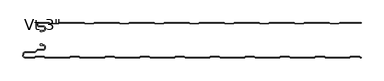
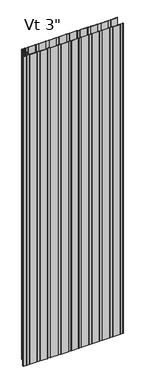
"""IFC4 building model written with IfcOpenShell, lengths in millimetres: plate geometry."""

from ifc_helpers import new_model, si_unit, point, frame, frame_2d, origin, origin_with_axes, place, context, project, spatial, polyline, circle_curve, trimmed, segment, composite_curve, outline, extrude, source, transform, mapped, element, save
from ifc_brep_helpers import plane_surface, cylinder_surface, revolved_surface, advanced_brep


def plate_1283bab2(model_context):
    return source(origin(), model_context, "Body", "SolidModel", [
        advanced_brep(
        [(-346.968691, -17.0015202, 2400.0), (-347.9686883, -18.0015234, 2400.0), (-346.968691, -19.0015147, 2400.0), (-342.9684874, -19.0015147, 2400.0), (-342.9684874, -18.0015202, 2400.0), (-340.2762776, -18.0015202, 2400.0), (-336.9762819, -14.7015245, 2400.0), (-336.9762819, -10.3015333, 2400.0), (-340.2762774, -7.0015378, 2400.0), (-350.6962563, -7.0015378, 2400.0), (-352.4662505, -5.2315436, 2400.0), (-352.4662505, -0.9999959, 2400.0), (-327.9659738, -0.9999959, 2400.0), (-326.5803312, -2.200235, 2400.0), (-307.2051649, -2.200235, 2400.0), (-305.819532, -1.0000043, 2400.0), (-251.7661166, -1.0000043, 2400.0), (-250.3804836, -2.200235, 2400.0), (-231.0053173, -2.200235, 2400.0), (-229.6196844, -1.0000043, 2400.0), (-175.566269, -1.0000043, 2400.0), (-174.180636, -2.200235, 2400.0), (-154.8054697, -2.200235, 2400.0), (-153.4198368, -1.0000043, 2400.0), (-99.3664214, -1.0000043, 2400.0), (-97.9807884, -2.200235, 2400.0), (-78.6056221, -2.200235, 2400.0), (-77.2199892, -1.0000043, 2400.0), (-23.1665738, -1.0000043, 2400.0), (-21.7809408, -2.200235, 2400.0), (-2.4057745, -2.200235, 2400.0), (-1.0201416, -1.0000043, 2400.0), (53.0332738, -1.0000043, 2400.0), (54.4189068, -2.200235, 2400.0), (73.7940731, -2.200235, 2400.0), (75.179706, -1.0000043, 2400.0), (129.2331214, -1.0000043, 2400.0), (130.6187544, -2.200235, 2400.0), (149.9939207, -2.200235, 2400.0), (151.3795536, -1.0000043, 2400.0), (205.432969, -1.0000043, 2400.0), (206.818602, -2.200235, 2400.0), (226.1937683, -2.200235, 2400.0), (227.5794012, -1.0000043, 2400.0), (281.6328166, -1.0000043, 2400.0), (283.0184496, -2.200235, 2400.0), (302.3936159, -2.200235, 2400.0), (303.7792488, -1.0000043, 2400.0), (350.4999998, -1.0000043, 2400.0), (350.4999998, -4.3e-06, 2400.0), (303.9284, -4.3e-06, 2400.0), (303.0117831, -0.3417928, 2400.0), (302.0207355, -1.200235, 2400.0), (283.39133, -1.200235, 2400.0), (282.4002824, -0.3417928, 2400.0), (281.4836655, -4.3e-06, 2400.0), (227.7285524, -4.3e-06, 2400.0), (226.8119355, -0.3417928, 2400.0), (225.8208879, -1.200235, 2400.0), (207.1914824, -1.200235, 2400.0), (206.2004348, -0.3417928, 2400.0), (205.2838179, -4.3e-06, 2400.0), (151.5287048, -4.3e-06, 2400.0), (150.6120879, -0.3417928, 2400.0), (149.6210403, -1.200235, 2400.0), (130.9916348, -1.200235, 2400.0), (130.0005872, -0.3417928, 2400.0), (129.0839703, -4.3e-06, 2400.0), (75.3288572, -4.3e-06, 2400.0), (74.4122403, -0.3417928, 2400.0), (73.4211927, -1.200235, 2400.0), (54.7917872, -1.200235, 2400.0), (53.8007396, -0.3417928, 2400.0), (52.8841227, -4.3e-06, 2400.0), (-0.8709904, -4.3e-06, 2400.0), (-1.7876073, -0.3417928, 2400.0), (-2.7786549, -1.200235, 2400.0), (-21.4080604, -1.200235, 2400.0), (-22.399108, -0.3417928, 2400.0), (-23.3157249, -4.3e-06, 2400.0), (-77.070838, -4.3e-06, 2400.0), (-77.9874549, -0.3417928, 2400.0), (-78.9785025, -1.200235, 2400.0), (-97.607908, -1.200235, 2400.0), (-98.5989556, -0.3417928, 2400.0), (-99.5155725, -4.3e-06, 2400.0), (-153.2706856, -4.3e-06, 2400.0), (-154.1873025, -0.3417928, 2400.0), (-155.1783501, -1.200235, 2400.0), (-173.8077556, -1.200235, 2400.0), (-174.7988032, -0.3417928, 2400.0), (-175.7154201, -4.3e-06, 2400.0), (-229.4705332, -4.3e-06, 2400.0), (-230.3871501, -0.3417928, 2400.0), (-231.3781977, -1.200235, 2400.0), (-250.0076032, -1.200235, 2400.0), (-250.9986508, -0.3417928, 2400.0), (-251.9152677, -4.3e-06, 2400.0), (-305.6703808, -4.3e-06, 2400.0), (-306.5869977, -0.3417928, 2400.0), (-307.5780453, -1.200235, 2400.0), (-326.2074508, -1.200235, 2400.0), (-327.1984984, -0.3417928, 2400.0), (-328.1152067, -4.3e-06, 2400.0), (-352.0662543, 4.1e-06, 2400.0), (-353.4662505, -1.3999921, 2400.0), (-353.4662505, -5.2315436, 2400.0), (-350.6962563, -8.0015378, 2400.0), (-340.2762774, -8.0015378, 2400.0), (-337.9762819, -10.3015333, 2400.0), (-337.9762819, -14.7015245, 2400.0), (-340.2762776, -17.0015202, 2400.0), (-346.968691, -17.0015202, 0.0), (-340.2762776, -17.0015202, 0.0), (-337.9762819, -14.7015245, 0.0), (-337.9762819, -10.3015333, 0.0), (-340.2762774, -8.0015378, 0.0), (-350.6962563, -8.0015378, 0.0), (-353.4662505, -5.2315436, 0.0), (-353.4662505, -1.3999921, 0.0), (-352.0662543, 4.1e-06, 0.0), (-328.1151153, 4.1e-06, 0.0), (-327.1984984, -0.3417928, 0.0), (-326.2074508, -1.200235, 0.0), (-307.5780453, -1.200235, 0.0), (-306.5869977, -0.3417928, 0.0), (-305.6703808, -4.3e-06, 0.0), (-251.9152677, -4.3e-06, 0.0), (-250.9986508, -0.3417928, 0.0), (-250.0076032, -1.200235, 0.0), (-231.3781977, -1.200235, 0.0), (-230.3871501, -0.3417928, 0.0), (-229.4705332, -4.3e-06, 0.0), (-175.7154201, -4.3e-06, 0.0), (-174.7988032, -0.3417928, 0.0), (-173.8077556, -1.200235, 0.0), (-155.1783501, -1.200235, 0.0), (-154.1873025, -0.3417928, 0.0), (-153.2706856, -4.3e-06, 0.0), (-99.5155725, -4.3e-06, 0.0), (-98.5989556, -0.3417928, 0.0), (-97.607908, -1.200235, 0.0), (-78.9785025, -1.200235, 0.0), (-77.9874549, -0.3417928, 0.0), (-77.070838, -4.3e-06, 0.0), (-23.3157249, -4.3e-06, 0.0), (-22.399108, -0.3417928, 0.0), (-21.4080604, -1.200235, 0.0), (-2.7786549, -1.200235, 0.0), (-1.7876073, -0.3417928, 0.0), (-0.8709904, -4.3e-06, 0.0), (52.8841227, -4.3e-06, 0.0), (53.8007396, -0.3417928, 0.0), (54.7917872, -1.200235, 0.0), (73.4211927, -1.200235, 0.0), (74.4122403, -0.3417928, 0.0), (75.3288572, -4.3e-06, 0.0), (129.0839703, -4.3e-06, 0.0), (130.0005872, -0.3417928, 0.0), (130.9916348, -1.200235, 0.0), (149.6210403, -1.200235, 0.0), (150.6120879, -0.3417928, 0.0), (151.5287048, -4.3e-06, 0.0), (205.2838179, -4.3e-06, 0.0), (206.2004348, -0.3417928, 0.0), (207.1914824, -1.200235, 0.0), (225.8208879, -1.200235, 0.0), (226.8119355, -0.3417928, 0.0), (227.7285524, -4.3e-06, 0.0), (281.4836655, -4.3e-06, 0.0), (282.4002824, -0.3417928, 0.0), (283.39133, -1.200235, 0.0), (302.0207355, -1.200235, 0.0), (303.0117831, -0.3417928, 0.0), (303.9284, -4.3e-06, 0.0), (350.4999998, -4.3e-06, 0.0), (350.4999998, -1.0000043, 0.0), (303.7792488, -1.0000043, 0.0), (302.3936159, -2.200235, 0.0), (283.0184496, -2.200235, 0.0), (281.6328166, -1.0000043, 0.0), (227.5794012, -1.0000043, 0.0), (226.1937683, -2.200235, 0.0), (206.818602, -2.200235, 0.0), (205.432969, -1.0000043, 0.0), (151.3795536, -1.0000043, 0.0), (149.9939207, -2.200235, 0.0), (130.6187544, -2.200235, 0.0), (129.2331214, -1.0000043, 0.0), (75.179706, -1.0000043, 0.0), (73.7940731, -2.200235, 0.0), (54.4189068, -2.200235, 0.0), (53.0332738, -1.0000043, 0.0), (-1.0201416, -1.0000043, 0.0), (-2.4057745, -2.200235, 0.0), (-21.7809408, -2.200235, 0.0), (-23.1665738, -1.0000043, 0.0), (-77.2199892, -1.0000043, 0.0), (-78.6056221, -2.200235, 0.0), (-97.9807884, -2.200235, 0.0), (-99.3664214, -1.0000043, 0.0), (-153.4198368, -1.0000043, 0.0), (-154.8054697, -2.200235, 0.0), (-174.180636, -2.200235, 0.0), (-175.566269, -1.0000043, 0.0), (-229.6196844, -1.0000043, 0.0), (-231.0053173, -2.200235, 0.0), (-250.3804836, -2.200235, 0.0), (-251.7661166, -1.0000043, 0.0), (-305.819532, -1.0000043, 0.0), (-307.2051649, -2.200235, 0.0), (-326.5803312, -2.200235, 0.0), (-327.9659738, -0.9999959, 0.0), (-352.4662505, -0.9999959, 0.0), (-352.4662505, -5.2315436, 0.0), (-350.6962563, -7.0015378, 0.0), (-340.2762774, -7.0015378, 0.0), (-336.9762819, -10.3015333, 0.0), (-336.9762819, -14.7015245, 0.0), (-340.2762776, -18.0015202, 0.0), (-342.9684874, -18.0015202, 0.0), (-342.9684874, -19.0015147, 0.0), (-346.968691, -19.0015147, 0.0), (-347.9686882, -18.0015235, 0.0)],
        [
            (0, 1, circle_curve(frame((-346.968691, -18.0015175, 2400.0), z_axis=(0.0, 0.0, 1.0), x_axis=(1.0, 0.0, 0.0)), 0.9999973)),
            (1, 2, circle_curve(frame((-346.968691, -18.0015175, 2400.0), z_axis=(0.0, 0.0, 1.0), x_axis=(1.0, 0.0, 0.0)), 0.9999972)),
            (2, 3),
            (3, 4),
            (4, 5),
            (5, 6, circle_curve(frame((-340.2762776, -14.7015245, 2400.0), z_axis=(0.0, 0.0, 1.0), x_axis=(1.0, 0.0, 0.0)), 3.2999957)),
            (6, 7),
            (7, 8, circle_curve(frame((-340.2762774, -10.3015333, 2400.0), z_axis=(0.0, 0.0, 1.0), x_axis=(1.0, 0.0, 0.0)), 3.2999955)),
            (8, 9),
            (9, 10, circle_curve(frame((-350.6962563, -5.2315436, 2400.0), z_axis=(0.0, 0.0, -1.0), x_axis=(1.0, 0.0, 0.0)), 1.7699942)),
            (10, 11),
            (11, 12),
            (12, 13),
            (13, 14),
            (14, 15),
            (15, 16),
            (16, 17),
            (17, 18),
            (18, 19),
            (19, 20),
            (20, 21),
            (21, 22),
            (22, 23),
            (23, 24),
            (24, 25),
            (25, 26),
            (26, 27),
            (27, 28),
            (28, 29),
            (29, 30),
            (30, 31),
            (31, 32),
            (32, 33),
            (33, 34),
            (34, 35),
            (35, 36),
            (36, 37),
            (37, 38),
            (38, 39),
            (39, 40),
            (40, 41),
            (41, 42),
            (42, 43),
            (43, 44),
            (44, 45),
            (45, 46),
            (46, 47),
            (47, 48),
            (48, 49),
            (49, 50),
            (50, 51, circle_curve(frame((303.9284, -1.4000015, 2400.0), z_axis=(0.0, 0.0, 1.0), x_axis=(1.0, 0.0, 0.0)), 1.3999972)),
            (51, 52),
            (52, 53),
            (53, 54),
            (54, 55, circle_curve(frame((281.4836655, -1.4000015, 2400.0), z_axis=(0.0, 0.0, 1.0), x_axis=(1.0, 0.0, 0.0)), 1.3999972)),
            (55, 56),
            (56, 57, circle_curve(frame((227.7285524, -1.4000015, 2400.0), z_axis=(0.0, 0.0, 1.0), x_axis=(1.0, 0.0, 0.0)), 1.3999972)),
            (57, 58),
            (58, 59),
            (59, 60),
            (60, 61, circle_curve(frame((205.2838179, -1.4000015, 2400.0), z_axis=(0.0, 0.0, 1.0), x_axis=(1.0, 0.0, 0.0)), 1.3999972)),
            (61, 62),
            (62, 63, circle_curve(frame((151.5287048, -1.4000015, 2400.0), z_axis=(0.0, 0.0, 1.0), x_axis=(1.0, 0.0, 0.0)), 1.3999972)),
            (63, 64),
            (64, 65),
            (65, 66),
            (66, 67, circle_curve(frame((129.0839703, -1.4000015, 2400.0), z_axis=(0.0, 0.0, 1.0), x_axis=(1.0, 0.0, 0.0)), 1.3999972)),
            (67, 68),
            (68, 69, circle_curve(frame((75.3288572, -1.4000015, 2400.0), z_axis=(0.0, 0.0, 1.0), x_axis=(1.0, 0.0, 0.0)), 1.3999972)),
            (69, 70),
            (70, 71),
            (71, 72),
            (72, 73, circle_curve(frame((52.8841227, -1.4000015, 2400.0), z_axis=(0.0, 0.0, 1.0), x_axis=(1.0, 0.0, 0.0)), 1.3999972)),
            (73, 74),
            (74, 75, circle_curve(frame((-0.8709904, -1.4000015, 2400.0), z_axis=(0.0, 0.0, 1.0), x_axis=(1.0, 0.0, 0.0)), 1.3999972)),
            (75, 76),
            (76, 77),
            (77, 78),
            (78, 79, circle_curve(frame((-23.3157249, -1.4000015, 2400.0), z_axis=(0.0, 0.0, 1.0), x_axis=(1.0, 0.0, 0.0)), 1.3999972)),
            (79, 80),
            (80, 81, circle_curve(frame((-77.070838, -1.4000015, 2400.0), z_axis=(0.0, 0.0, 1.0), x_axis=(1.0, 0.0, 0.0)), 1.3999972)),
            (81, 82),
            (82, 83),
            (83, 84),
            (84, 85, circle_curve(frame((-99.5155725, -1.4000015, 2400.0), z_axis=(0.0, 0.0, 1.0), x_axis=(1.0, 0.0, 0.0)), 1.3999972)),
            (85, 86),
            (86, 87, circle_curve(frame((-153.2706856, -1.4000015, 2400.0), z_axis=(0.0, 0.0, 1.0), x_axis=(1.0, 0.0, 0.0)), 1.3999972)),
            (87, 88),
            (88, 89),
            (89, 90),
            (90, 91, circle_curve(frame((-175.7154201, -1.4000015, 2400.0), z_axis=(0.0, 0.0, 1.0), x_axis=(1.0, 0.0, 0.0)), 1.3999972)),
            (91, 92),
            (92, 93, circle_curve(frame((-229.4705332, -1.4000015, 2400.0), z_axis=(0.0, 0.0, 1.0), x_axis=(1.0, 0.0, 0.0)), 1.3999972)),
            (93, 94),
            (94, 95),
            (95, 96),
            (96, 97, circle_curve(frame((-251.9152677, -1.4000015, 2400.0), z_axis=(0.0, 0.0, 1.0), x_axis=(1.0, 0.0, 0.0)), 1.3999972)),
            (97, 98),
            (98, 99, circle_curve(frame((-305.6703808, -1.4000015, 2400.0), z_axis=(0.0, 0.0, 1.0), x_axis=(1.0, 0.0, 0.0)), 1.3999972)),
            (99, 100),
            (100, 101),
            (101, 102),
            (102, 103, circle_curve(frame((-328.1151153, -1.4000015, 2400.0), z_axis=(0.0, 0.0, 1.0), x_axis=(1.0, 0.0, 0.0)), 1.3999972)),
            (103, 104),
            (104, 105, circle_curve(frame((-352.0662543, -1.3999921, 2400.0), z_axis=(0.0, 0.0, 1.0), x_axis=(1.0, 0.0, 0.0)), 1.3999962)),
            (105, 106),
            (106, 107, circle_curve(frame((-350.6962563, -5.2315436, 2400.0), z_axis=(0.0, 0.0, 1.0), x_axis=(1.0, 0.0, 0.0)), 2.7699942)),
            (107, 108),
            (108, 109, circle_curve(frame((-340.2762774, -10.3015333, 2400.0), z_axis=(0.0, 0.0, -1.0), x_axis=(1.0, 0.0, 0.0)), 2.2999955)),
            (109, 110),
            (110, 111, circle_curve(frame((-340.2762776, -14.7015245, 2400.0), z_axis=(0.0, 0.0, -1.0), x_axis=(1.0, 0.0, 0.0)), 2.2999957)),
            (111, 0),
            (112, 113),
            (113, 114, circle_curve(frame((-340.2762776, -14.7015245, 0.0), z_axis=(0.0, 0.0, 1.0), x_axis=(1.0, 0.0, 0.0)), 2.2999957)),
            (114, 115),
            (115, 116, circle_curve(frame((-340.2762774, -10.3015333, 0.0), z_axis=(0.0, 0.0, 1.0), x_axis=(1.0, 0.0, 0.0)), 2.2999955)),
            (116, 117),
            (117, 118, circle_curve(frame((-350.6962563, -5.2315436, 0.0), z_axis=(0.0, 0.0, -1.0), x_axis=(1.0, 0.0, 0.0)), 2.7699942)),
            (118, 119),
            (119, 120, circle_curve(frame((-352.0662543, -1.3999921, 0.0), z_axis=(0.0, 0.0, -1.0), x_axis=(1.0, 0.0, 0.0)), 1.3999962)),
            (120, 121),
            (121, 122, circle_curve(frame((-328.1151153, -1.4000015, 0.0), z_axis=(0.0, 0.0, -1.0), x_axis=(1.0, 0.0, 0.0)), 1.3999972)),
            (122, 123),
            (123, 124),
            (124, 125),
            (125, 126, circle_curve(frame((-305.6703808, -1.4000015, 0.0), z_axis=(0.0, 0.0, -1.0), x_axis=(1.0, 0.0, 0.0)), 1.3999972)),
            (126, 127),
            (127, 128, circle_curve(frame((-251.9152677, -1.4000015, 0.0), z_axis=(0.0, 0.0, -1.0), x_axis=(1.0, 0.0, 0.0)), 1.3999972)),
            (128, 129),
            (129, 130),
            (130, 131),
            (131, 132, circle_curve(frame((-229.4705332, -1.4000015, 0.0), z_axis=(0.0, 0.0, -1.0), x_axis=(1.0, 0.0, 0.0)), 1.3999972)),
            (132, 133),
            (133, 134, circle_curve(frame((-175.7154201, -1.4000015, 0.0), z_axis=(0.0, 0.0, -1.0), x_axis=(1.0, 0.0, 0.0)), 1.3999972)),
            (134, 135),
            (135, 136),
            (136, 137),
            (137, 138, circle_curve(frame((-153.2706856, -1.4000015, 0.0), z_axis=(0.0, 0.0, -1.0), x_axis=(1.0, 0.0, 0.0)), 1.3999972)),
            (138, 139),
            (139, 140, circle_curve(frame((-99.5155725, -1.4000015, 0.0), z_axis=(0.0, 0.0, -1.0), x_axis=(1.0, 0.0, 0.0)), 1.3999972)),
            (140, 141),
            (141, 142),
            (142, 143),
            (143, 144, circle_curve(frame((-77.070838, -1.4000015, 0.0), z_axis=(0.0, 0.0, -1.0), x_axis=(1.0, 0.0, 0.0)), 1.3999972)),
            (144, 145),
            (145, 146, circle_curve(frame((-23.3157249, -1.4000015, 0.0), z_axis=(0.0, 0.0, -1.0), x_axis=(1.0, 0.0, 0.0)), 1.3999972)),
            (146, 147),
            (147, 148),
            (148, 149),
            (149, 150, circle_curve(frame((-0.8709904, -1.4000015, 0.0), z_axis=(0.0, 0.0, -1.0), x_axis=(1.0, 0.0, 0.0)), 1.3999972)),
            (150, 151),
            (151, 152, circle_curve(frame((52.8841227, -1.4000015, 0.0), z_axis=(0.0, 0.0, -1.0), x_axis=(1.0, 0.0, 0.0)), 1.3999972)),
            (152, 153),
            (153, 154),
            (154, 155),
            (155, 156, circle_curve(frame((75.3288572, -1.4000015, 0.0), z_axis=(0.0, 0.0, -1.0), x_axis=(1.0, 0.0, 0.0)), 1.3999972)),
            (156, 157),
            (157, 158, circle_curve(frame((129.0839703, -1.4000015, 0.0), z_axis=(0.0, 0.0, -1.0), x_axis=(1.0, 0.0, 0.0)), 1.3999972)),
            (158, 159),
            (159, 160),
            (160, 161),
            (161, 162, circle_curve(frame((151.5287048, -1.4000015, 0.0), z_axis=(0.0, 0.0, -1.0), x_axis=(1.0, 0.0, 0.0)), 1.3999972)),
            (162, 163),
            (163, 164, circle_curve(frame((205.2838179, -1.4000015, 0.0), z_axis=(0.0, 0.0, -1.0), x_axis=(1.0, 0.0, 0.0)), 1.3999972)),
            (164, 165),
            (165, 166),
            (166, 167),
            (167, 168, circle_curve(frame((227.7285524, -1.4000015, 0.0), z_axis=(0.0, 0.0, -1.0), x_axis=(1.0, 0.0, 0.0)), 1.3999972)),
            (168, 169),
            (169, 170, circle_curve(frame((281.4836655, -1.4000015, 0.0), z_axis=(0.0, 0.0, -1.0), x_axis=(1.0, 0.0, 0.0)), 1.3999972)),
            (170, 171),
            (171, 172),
            (172, 173),
            (173, 174, circle_curve(frame((303.9284, -1.4000015, 0.0), z_axis=(0.0, 0.0, -1.0), x_axis=(1.0, 0.0, 0.0)), 1.3999972)),
            (174, 175),
            (175, 176),
            (176, 177),
            (177, 178),
            (178, 179),
            (179, 180),
            (180, 181),
            (181, 182),
            (182, 183),
            (183, 184),
            (184, 185),
            (185, 186),
            (186, 187),
            (187, 188),
            (188, 189),
            (189, 190),
            (190, 191),
            (191, 192),
            (192, 193),
            (193, 194),
            (194, 195),
            (195, 196),
            (196, 197),
            (197, 198),
            (198, 199),
            (199, 200),
            (200, 201),
            (201, 202),
            (202, 203),
            (203, 204),
            (204, 205),
            (205, 206),
            (206, 207),
            (207, 208),
            (208, 209),
            (209, 210),
            (210, 211),
            (211, 212),
            (212, 213),
            (213, 214),
            (214, 215, circle_curve(frame((-350.6962563, -5.2315436, 0.0), z_axis=(0.0, 0.0, 1.0), x_axis=(1.0, 0.0, 0.0)), 1.7699942)),
            (215, 216),
            (216, 217, circle_curve(frame((-340.2762774, -10.3015333, 0.0), z_axis=(0.0, 0.0, -1.0), x_axis=(1.0, 0.0, 0.0)), 3.2999955)),
            (217, 218),
            (218, 219, circle_curve(frame((-340.2762776, -14.7015245, 0.0), z_axis=(0.0, 0.0, -1.0), x_axis=(1.0, 0.0, 0.0)), 3.2999957)),
            (219, 220),
            (220, 221),
            (221, 222),
            (222, 223, circle_curve(frame((-346.968691, -18.0015175, 0.0), z_axis=(0.0, 0.0, -1.0), x_axis=(1.0, 0.0, 0.0)), 0.9999972)),
            (223, 112, circle_curve(frame((-346.968691, -18.0015175, 0.0), z_axis=(0.0, 0.0, -1.0), x_axis=(1.0, 0.0, 0.0)), 0.9999973)),
            (111, 113),
            (112, 0),
            (110, 114),
            (109, 115),
            (108, 116),
            (107, 117),
            (106, 118),
            (105, 119),
            (104, 120),
            (103, 121),
            (102, 122),
            (101, 123),
            (100, 124),
            (99, 125),
            (98, 126),
            (97, 127),
            (96, 128),
            (95, 129),
            (94, 130),
            (93, 131),
            (92, 132),
            (91, 133),
            (90, 134),
            (89, 135),
            (88, 136),
            (87, 137),
            (86, 138),
            (85, 139),
            (84, 140),
            (83, 141),
            (82, 142),
            (81, 143),
            (80, 144),
            (79, 145),
            (78, 146),
            (77, 147),
            (76, 148),
            (75, 149),
            (74, 150),
            (73, 151),
            (72, 152),
            (71, 153),
            (70, 154),
            (69, 155),
            (68, 156),
            (67, 157),
            (66, 158),
            (65, 159),
            (64, 160),
            (63, 161),
            (62, 162),
            (61, 163),
            (39, 185),
            (184, 40),
            (38, 186),
            (37, 187),
            (36, 188),
            (35, 189),
            (34, 190),
            (33, 191),
            (32, 192),
            (31, 193),
            (30, 194),
            (29, 195),
            (28, 196),
            (27, 197),
            (26, 198),
            (25, 199),
            (24, 200),
            (23, 201),
            (22, 202),
            (21, 203),
            (20, 204),
            (19, 205),
            (18, 206),
            (17, 207),
            (16, 208),
            (15, 209),
            (14, 210),
            (13, 211),
            (12, 212),
            (11, 213),
            (10, 214),
            (9, 215),
            (8, 216),
            (7, 217),
            (6, 218),
            (5, 219),
            (4, 220),
            (3, 221),
            (2, 222),
            (1, 223),
            (48, 176),
            (175, 49),
            (60, 164),
            (59, 165),
            (58, 166),
            (57, 167),
            (56, 168),
            (55, 169),
            (54, 170),
            (53, 171),
            (52, 172),
            (51, 173),
            (50, 174),
            (47, 177),
            (46, 178),
            (45, 179),
            (44, 180),
            (43, 181),
            (42, 182),
            (41, 183),
        ],
        [
            plane_surface(frame((32.0000002, -4.3e-06, 2400.0), z_axis=(0.0, 0.0, 1.0), x_axis=(0.0, 1.0, 0.0))),
            plane_surface(frame((32.0000002, -4.3e-06, 0.0), z_axis=(0.0, 0.0, -1.0), x_axis=(0.0, 1.0, 0.0))),
            plane_surface(frame((-346.968691, -17.0015202, 2400.0), z_axis=(0.0, 1.0, 0.0), x_axis=(0.0, 0.0, -1.0))),
            revolved_surface(polyline([(-337.9762819, -14.7015245, 0.0), (-337.9762819, -14.7015245, 2400.0)]), (-340.2762776, -14.7015245, 2400.0), (0.0, 0.0, -1.0)),
            plane_surface(frame((-337.9762819, -14.7015245, 2400.0), z_axis=(-1.0, 0.0, 0.0), x_axis=(0.0, 0.0, -1.0))),
            revolved_surface(polyline([(-337.9762819, -10.3015333, 0.0), (-337.9762819, -10.3015333, 2400.0)]), (-340.2762774, -10.3015333, 2400.0), (0.0, 0.0, -1.0)),
            plane_surface(frame((-340.2762774, -8.0015378, 2400.0), z_axis=(0.0, -1.0, 0.0), x_axis=(0.0, 0.0, -1.0))),
            cylinder_surface(frame((-350.6962563, -5.2315436, 2400.0), z_axis=(0.0, 0.0, 1.0), x_axis=(1.0, 0.0, 0.0)), 2.7699942),
            plane_surface(frame((-353.4662505, -5.2315436, 2400.0), z_axis=(-1.0, 0.0, 0.0), x_axis=(0.0, 0.0, -1.0))),
            cylinder_surface(frame((-352.0662543, -1.3999921, 2400.0), z_axis=(0.0, 0.0, 1.0), x_axis=(1.0, 0.0, 0.0)), 1.3999962),
            plane_surface(frame((-352.0662543, 4.1e-06, 2400.0), z_axis=(0.0, 1.0, 0.0), x_axis=(0.0, 0.0, -1.0))),
            cylinder_surface(frame((-328.1151153, -1.4000015, 2400.0), z_axis=(0.0, 0.0, 1.0), x_axis=(1.0, 0.0, 0.0)), 1.3999972),
            plane_surface(frame((-327.1984984, -0.3417928, 2400.0), z_axis=(0.6547276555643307, 0.7558648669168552, 0.0), x_axis=(0.0, 0.0, -1.0))),
            plane_surface(frame((-316.8927481, -1.200235, 2400.0), z_axis=(0.0, 1.0, 0.0), x_axis=(0.0, 0.0, -1.0))),
            plane_surface(frame((-307.5780453, -1.200235, 2400.0), z_axis=(-0.6547276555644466, 0.7558648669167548, 0.0), x_axis=(0.0, 0.0, -1.0))),
            cylinder_surface(frame((-305.6703808, -1.4000015, 2400.0), z_axis=(0.0, 0.0, 1.0), x_axis=(1.0, 0.0, 0.0)), 1.3999972),
            plane_surface(frame((-305.6703808, -4.3e-06, 2400.0), z_axis=(0.0, 1.0, 0.0), x_axis=(0.0, 0.0, -1.0))),
            cylinder_surface(frame((-251.9152677, -1.4000015, 2400.0), z_axis=(0.0, 0.0, 1.0), x_axis=(1.0, 0.0, 0.0)), 1.3999972),
            plane_surface(frame((-250.9986508, -0.3417928, 2400.0), z_axis=(0.6547276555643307, 0.7558648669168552, 0.0), x_axis=(0.0, 0.0, -1.0))),
            plane_surface(frame((-240.6929005, -1.200235, 2400.0), z_axis=(0.0, 1.0, 0.0), x_axis=(0.0, 0.0, -1.0))),
            plane_surface(frame((-231.3781977, -1.200235, 2400.0), z_axis=(-0.6547276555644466, 0.7558648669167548, 0.0), x_axis=(0.0, 0.0, -1.0))),
            cylinder_surface(frame((-229.4705332, -1.4000015, 2400.0), z_axis=(0.0, 0.0, 1.0), x_axis=(1.0, 0.0, 0.0)), 1.3999972),
            plane_surface(frame((-229.4705332, -4.3e-06, 2400.0), z_axis=(0.0, 1.0, 0.0), x_axis=(0.0, 0.0, -1.0))),
            cylinder_surface(frame((-175.7154201, -1.4000015, 2400.0), z_axis=(0.0, 0.0, 1.0), x_axis=(1.0, 0.0, 0.0)), 1.3999972),
            plane_surface(frame((-174.7988032, -0.3417928, 2400.0), z_axis=(0.6547276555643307, 0.7558648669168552, 0.0), x_axis=(0.0, 0.0, -1.0))),
            plane_surface(frame((-164.4930529, -1.200235, 2400.0), z_axis=(0.0, 1.0, 0.0), x_axis=(0.0, 0.0, -1.0))),
            plane_surface(frame((-155.1783501, -1.200235, 2400.0), z_axis=(-0.6547276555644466, 0.7558648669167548, 0.0), x_axis=(0.0, 0.0, -1.0))),
            cylinder_surface(frame((-153.2706856, -1.4000015, 2400.0), z_axis=(0.0, 0.0, 1.0), x_axis=(1.0, 0.0, 0.0)), 1.3999972),
            plane_surface(frame((-153.2706856, -4.3e-06, 2400.0), z_axis=(0.0, 1.0, 0.0), x_axis=(0.0, 0.0, -1.0))),
            cylinder_surface(frame((-99.5155725, -1.4000015, 2400.0), z_axis=(0.0, 0.0, 1.0), x_axis=(1.0, 0.0, 0.0)), 1.3999972),
            plane_surface(frame((-98.5989556, -0.3417928, 2400.0), z_axis=(0.6547276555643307, 0.7558648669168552, 0.0), x_axis=(0.0, 0.0, -1.0))),
            plane_surface(frame((-88.2932053, -1.200235, 2400.0), z_axis=(0.0, 1.0, 0.0), x_axis=(0.0, 0.0, -1.0))),
            plane_surface(frame((-78.9785025, -1.200235, 2400.0), z_axis=(-0.6547276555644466, 0.7558648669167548, 0.0), x_axis=(0.0, 0.0, -1.0))),
            cylinder_surface(frame((-77.070838, -1.4000015, 2400.0), z_axis=(0.0, 0.0, 1.0), x_axis=(1.0, 0.0, 0.0)), 1.3999972),
            plane_surface(frame((-77.070838, -4.3e-06, 2400.0), z_axis=(0.0, 1.0, 0.0), x_axis=(0.0, 0.0, -1.0))),
            cylinder_surface(frame((-23.3157249, -1.4000015, 2400.0), z_axis=(0.0, 0.0, 1.0), x_axis=(1.0, 0.0, 0.0)), 1.3999972),
            plane_surface(frame((-22.399108, -0.3417928, 2400.0), z_axis=(0.6547276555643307, 0.7558648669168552, 0.0), x_axis=(0.0, 0.0, -1.0))),
            plane_surface(frame((-12.0933577, -1.200235, 2400.0), z_axis=(0.0, 1.0, 0.0), x_axis=(0.0, 0.0, -1.0))),
            plane_surface(frame((-2.7786549, -1.200235, 2400.0), z_axis=(-0.6547276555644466, 0.7558648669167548, 0.0), x_axis=(0.0, 0.0, -1.0))),
            cylinder_surface(frame((-0.8709904, -1.4000015, 2400.0), z_axis=(0.0, 0.0, 1.0), x_axis=(1.0, 0.0, 0.0)), 1.3999972),
            plane_surface(frame((-0.8709904, -4.3e-06, 2400.0), z_axis=(0.0, 1.0, 0.0), x_axis=(0.0, 0.0, -1.0))),
            cylinder_surface(frame((52.8841227, -1.4000015, 2400.0), z_axis=(0.0, 0.0, 1.0), x_axis=(1.0, 0.0, 0.0)), 1.3999972),
            plane_surface(frame((53.8007396, -0.3417928, 2400.0), z_axis=(0.6547276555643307, 0.7558648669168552, 0.0), x_axis=(0.0, 0.0, -1.0))),
            plane_surface(frame((64.1064899, -1.200235, 2400.0), z_axis=(0.0, 1.0, 0.0), x_axis=(0.0, 0.0, -1.0))),
            plane_surface(frame((73.4211927, -1.200235, 2400.0), z_axis=(-0.6547276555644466, 0.7558648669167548, 0.0), x_axis=(0.0, 0.0, -1.0))),
            cylinder_surface(frame((75.3288572, -1.4000015, 2400.0), z_axis=(0.0, 0.0, 1.0), x_axis=(1.0, 0.0, 0.0)), 1.3999972),
            plane_surface(frame((75.3288572, -4.3e-06, 2400.0), z_axis=(0.0, 1.0, 0.0), x_axis=(0.0, 0.0, -1.0))),
            cylinder_surface(frame((129.0839703, -1.4000015, 2400.0), z_axis=(0.0, 0.0, 1.0), x_axis=(1.0, 0.0, 0.0)), 1.3999972),
            plane_surface(frame((130.0005872, -0.3417928, 2400.0), z_axis=(0.6547276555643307, 0.7558648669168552, 0.0), x_axis=(0.0, 0.0, -1.0))),
            plane_surface(frame((140.3063375, -1.200235, 2400.0), z_axis=(0.0, 1.0, 0.0), x_axis=(0.0, 0.0, -1.0))),
            plane_surface(frame((149.6210403, -1.200235, 2400.0), z_axis=(-0.6547276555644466, 0.7558648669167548, 0.0), x_axis=(0.0, 0.0, -1.0))),
            cylinder_surface(frame((151.5287048, -1.4000015, 2400.0), z_axis=(0.0, 0.0, 1.0), x_axis=(1.0, 0.0, 0.0)), 1.3999972),
            plane_surface(frame((151.5287048, -4.3e-06, 2400.0), z_axis=(0.0, 1.0, 0.0), x_axis=(0.0, 0.0, -1.0))),
            plane_surface(frame((205.432969, -1.0000043, 2400.0), z_axis=(0.0, -1.0, 0.0), x_axis=(0.0, 0.0, -1.0))),
            plane_surface(frame((151.3795536, -1.0000043, 2400.0), z_axis=(0.6547276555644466, -0.7558648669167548, 0.0), x_axis=(0.0, 0.0, -1.0))),
            plane_surface(frame((149.9939207, -2.200235, 2400.0), z_axis=(0.0, -1.0, 0.0), x_axis=(0.0, 0.0, -1.0))),
            plane_surface(frame((130.6187544, -2.200235, 2400.0), z_axis=(-0.6547276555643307, -0.7558648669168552, 0.0), x_axis=(0.0, 0.0, -1.0))),
            plane_surface(frame((129.2331214, -1.0000043, 2400.0), z_axis=(0.0, -1.0, 0.0), x_axis=(0.0, 0.0, -1.0))),
            plane_surface(frame((75.179706, -1.0000043, 2400.0), z_axis=(0.6547276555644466, -0.7558648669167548, 0.0), x_axis=(0.0, 0.0, -1.0))),
            plane_surface(frame((73.7940731, -2.200235, 2400.0), z_axis=(0.0, -1.0, 0.0), x_axis=(0.0, 0.0, -1.0))),
            plane_surface(frame((54.4189068, -2.200235, 2400.0), z_axis=(-0.6547276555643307, -0.7558648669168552, 0.0), x_axis=(0.0, 0.0, -1.0))),
            plane_surface(frame((53.0332738, -1.0000043, 2400.0), z_axis=(0.0, -1.0, 0.0), x_axis=(0.0, 0.0, -1.0))),
            plane_surface(frame((-1.0201416, -1.0000043, 2400.0), z_axis=(0.6547276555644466, -0.7558648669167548, 0.0), x_axis=(0.0, 0.0, -1.0))),
            plane_surface(frame((-2.4057745, -2.200235, 2400.0), z_axis=(0.0, -1.0, 0.0), x_axis=(0.0, 0.0, -1.0))),
            plane_surface(frame((-21.7809408, -2.200235, 2400.0), z_axis=(-0.6547276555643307, -0.7558648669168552, 0.0), x_axis=(0.0, 0.0, -1.0))),
            plane_surface(frame((-23.1665738, -1.0000043, 2400.0), z_axis=(0.0, -1.0, 0.0), x_axis=(0.0, 0.0, -1.0))),
            plane_surface(frame((-77.2199892, -1.0000043, 2400.0), z_axis=(0.6547276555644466, -0.7558648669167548, 0.0), x_axis=(0.0, 0.0, -1.0))),
            plane_surface(frame((-78.6056221, -2.200235, 2400.0), z_axis=(0.0, -1.0, 0.0), x_axis=(0.0, 0.0, -1.0))),
            plane_surface(frame((-97.9807884, -2.200235, 2400.0), z_axis=(-0.6547276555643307, -0.7558648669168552, 0.0), x_axis=(0.0, 0.0, -1.0))),
            plane_surface(frame((-99.3664214, -1.0000043, 2400.0), z_axis=(0.0, -1.0, 0.0), x_axis=(0.0, 0.0, -1.0))),
            plane_surface(frame((-153.4198368, -1.0000043, 2400.0), z_axis=(0.6547276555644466, -0.7558648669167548, 0.0), x_axis=(0.0, 0.0, -1.0))),
            plane_surface(frame((-154.8054697, -2.200235, 2400.0), z_axis=(0.0, -1.0, 0.0), x_axis=(0.0, 0.0, -1.0))),
            plane_surface(frame((-174.180636, -2.200235, 2400.0), z_axis=(-0.6547276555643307, -0.7558648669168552, 0.0), x_axis=(0.0, 0.0, -1.0))),
            plane_surface(frame((-175.566269, -1.0000043, 2400.0), z_axis=(0.0, -1.0, 0.0), x_axis=(0.0, 0.0, -1.0))),
            plane_surface(frame((-229.6196844, -1.0000043, 2400.0), z_axis=(0.6547276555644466, -0.7558648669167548, 0.0), x_axis=(0.0, 0.0, -1.0))),
            plane_surface(frame((-231.0053173, -2.200235, 2400.0), z_axis=(0.0, -1.0, 0.0), x_axis=(0.0, 0.0, -1.0))),
            plane_surface(frame((-250.3804836, -2.200235, 2400.0), z_axis=(-0.6547276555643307, -0.7558648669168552, 0.0), x_axis=(0.0, 0.0, -1.0))),
            plane_surface(frame((-251.7661166, -1.0000043, 2400.0), z_axis=(0.0, -1.0, 0.0), x_axis=(0.0, 0.0, -1.0))),
            plane_surface(frame((-305.819532, -1.0000043, 2400.0), z_axis=(0.6547276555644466, -0.7558648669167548, 0.0), x_axis=(0.0, 0.0, -1.0))),
            plane_surface(frame((-307.2051649, -2.200235, 2400.0), z_axis=(0.0, -1.0, 0.0), x_axis=(0.0, 0.0, -1.0))),
            plane_surface(frame((-326.5803312, -2.200235, 2400.0), z_axis=(-0.6547276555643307, -0.7558648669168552, 0.0), x_axis=(0.0, 0.0, -1.0))),
            plane_surface(frame((-327.9659738, -0.9999959, 2400.0), z_axis=(0.0, -1.0, 0.0), x_axis=(0.0, 0.0, -1.0))),
            plane_surface(frame((-352.4662505, -0.9999959, 2400.0), z_axis=(1.0, 0.0, 0.0), x_axis=(0.0, 0.0, -1.0))),
            revolved_surface(polyline([(-348.92626210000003, -5.2315436, 0.0), (-348.92626210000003, -5.2315436, 2400.0)]), (-350.6962563, -5.2315436, 2400.0), (0.0, 0.0, -1.0)),
            plane_surface(frame((-350.6962563, -7.0015378, 2400.0), z_axis=(0.0, 1.0, 0.0), x_axis=(0.0, 0.0, -1.0))),
            cylinder_surface(frame((-340.2762774, -10.3015333, 2400.0), z_axis=(0.0, 0.0, 1.0), x_axis=(1.0, 0.0, 0.0)), 3.2999955),
            plane_surface(frame((-336.9762819, -10.3015333, 2400.0), z_axis=(1.0, 0.0, 0.0), x_axis=(0.0, 0.0, -1.0))),
            cylinder_surface(frame((-340.2762776, -14.7015245, 2400.0), z_axis=(0.0, 0.0, 1.0), x_axis=(1.0, 0.0, 0.0)), 3.2999957),
            plane_surface(frame((-340.2762776, -18.0015202, 2400.0), z_axis=(0.0, -1.0, 0.0), x_axis=(0.0, 0.0, -1.0))),
            plane_surface(frame((-342.9684874, -18.0015202, 2400.0), z_axis=(1.0, 0.0, 0.0), x_axis=(0.0, 0.0, -1.0))),
            plane_surface(frame((-342.9684874, -19.0015147, 2400.0), z_axis=(0.0, -1.0, 0.0), x_axis=(0.0, 0.0, -1.0))),
            cylinder_surface(frame((-346.968691, -18.0015175, 2400.0), z_axis=(0.0, 0.0, 1.0), x_axis=(1.0, 0.0, 0.0)), 0.9999972),
            cylinder_surface(frame((-346.968691, -18.0015175, 2400.0), z_axis=(0.0, 0.0, 1.0), x_axis=(1.0, 0.0, 0.0)), 0.9999973),
            plane_surface(frame((350.4999998, -86.2000043, 2400.0), z_axis=(1.0, 0.0, 0.0), x_axis=(0.0, 0.0, -1.0))),
            cylinder_surface(frame((205.2838179, -1.4000015, 2400.0), z_axis=(0.0, 0.0, 1.0), x_axis=(1.0, 0.0, 0.0)), 1.3999972),
            plane_surface(frame((206.2004348, -0.3417928, 2400.0), z_axis=(0.6547276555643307, 0.7558648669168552, 0.0), x_axis=(0.0, 0.0, -1.0))),
            plane_surface(frame((216.5061851, -1.200235, 2400.0), z_axis=(0.0, 1.0, 0.0), x_axis=(0.0, 0.0, -1.0))),
            plane_surface(frame((225.8208879, -1.200235, 2400.0), z_axis=(-0.6547276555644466, 0.7558648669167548, 0.0), x_axis=(0.0, 0.0, -1.0))),
            cylinder_surface(frame((227.7285524, -1.4000015, 2400.0), z_axis=(0.0, 0.0, 1.0), x_axis=(1.0, 0.0, 0.0)), 1.3999972),
            plane_surface(frame((227.7285524, -4.3e-06, 2400.0), z_axis=(0.0, 1.0, 0.0), x_axis=(0.0, 0.0, -1.0))),
            cylinder_surface(frame((281.4836655, -1.4000015, 2400.0), z_axis=(0.0, 0.0, 1.0), x_axis=(1.0, 0.0, 0.0)), 1.3999972),
            plane_surface(frame((282.4002824, -0.3417928, 2400.0), z_axis=(0.6547276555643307, 0.7558648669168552, 0.0), x_axis=(0.0, 0.0, -1.0))),
            plane_surface(frame((292.7060327, -1.200235, 2400.0), z_axis=(0.0, 1.0, 0.0), x_axis=(0.0, 0.0, -1.0))),
            plane_surface(frame((302.0207355, -1.200235, 2400.0), z_axis=(-0.6547276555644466, 0.7558648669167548, 0.0), x_axis=(0.0, 0.0, -1.0))),
            cylinder_surface(frame((303.9284, -1.4000015, 2400.0), z_axis=(0.0, 0.0, 1.0), x_axis=(1.0, 0.0, 0.0)), 1.3999972),
            plane_surface(frame((303.9284, -4.3e-06, 2400.0), z_axis=(0.0, 1.0, 0.0), x_axis=(0.0, 0.0, -1.0))),
            plane_surface(frame((357.8326642, -1.0000043, 2400.0), z_axis=(0.0, -1.0, 0.0), x_axis=(0.0, 0.0, -1.0))),
            plane_surface(frame((303.7792488, -1.0000043, 2400.0), z_axis=(0.6547276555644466, -0.7558648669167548, 0.0), x_axis=(0.0, 0.0, -1.0))),
            plane_surface(frame((302.3936159, -2.200235, 2400.0), z_axis=(0.0, -1.0, 0.0), x_axis=(0.0, 0.0, -1.0))),
            plane_surface(frame((283.0184496, -2.200235, 2400.0), z_axis=(-0.6547276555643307, -0.7558648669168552, 0.0), x_axis=(0.0, 0.0, -1.0))),
            plane_surface(frame((281.6328166, -1.0000043, 2400.0), z_axis=(0.0, -1.0, 0.0), x_axis=(0.0, 0.0, -1.0))),
            plane_surface(frame((227.5794012, -1.0000043, 2400.0), z_axis=(0.6547276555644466, -0.7558648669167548, 0.0), x_axis=(0.0, 0.0, -1.0))),
            plane_surface(frame((226.1937683, -2.200235, 2400.0), z_axis=(0.0, -1.0, 0.0), x_axis=(0.0, 0.0, -1.0))),
            plane_surface(frame((206.818602, -2.200235, 2400.0), z_axis=(-0.6547276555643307, -0.7558648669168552, 0.0), x_axis=(0.0, 0.0, -1.0))),
        ],
        [
            (0, [[1, 2, 3, 4, 5, 6, 7, 8, 9, 10, 11, 12, 13, 14, 15, 16, 17, 18, 19, 20, 21, 22, 23, 24, 25, 26, 27, 28, 29, 30, 31, 32, 33, 34, 35, 36, 37, 38, 39, 40, 41, 42, 43, 44, 45, 46, 47, 48, 49, 50, 51, 52, 53, 54, 55, 56, 57, 58, 59, 60, 61, 62, 63, 64, 65, 66, 67, 68, 69, 70, 71, 72, 73, 74, 75, 76, 77, 78, 79, 80, 81, 82, 83, 84, 85, 86, 87, 88, 89, 90, 91, 92, 93, 94, 95, 96, 97, 98, 99, 100, 101, 102, 103, 104, 105, 106, 107, 108, 109, 110, 111, 112]]),
            (1, [[113, 114, 115, 116, 117, 118, 119, 120, 121, 122, 123, 124, 125, 126, 127, 128, 129, 130, 131, 132, 133, 134, 135, 136, 137, 138, 139, 140, 141, 142, 143, 144, 145, 146, 147, 148, 149, 150, 151, 152, 153, 154, 155, 156, 157, 158, 159, 160, 161, 162, 163, 164, 165, 166, 167, 168, 169, 170, 171, 172, 173, 174, 175, 176, 177, 178, 179, 180, 181, 182, 183, 184, 185, 186, 187, 188, 189, 190, 191, 192, 193, 194, 195, 196, 197, 198, 199, 200, 201, 202, 203, 204, 205, 206, 207, 208, 209, 210, 211, 212, 213, 214, 215, 216, 217, 218, 219, 220, 221, 222, 223, 224]]),
            (2, [[225, -113, 226, -112]]),
            (3, [[227, -114, -225, -111]]),
            (4, [[228, -115, -227, -110]]),
            (5, [[229, -116, -228, -109]]),
            (6, [[230, -117, -229, -108]]),
            (7, [[231, -118, -230, -107]]),
            (8, [[232, -119, -231, -106]]),
            (9, [[233, -120, -232, -105]]),
            (10, [[234, -121, -233, -104]]),
            (11, [[235, -122, -234, -103]]),
            (12, [[236, -123, -235, -102]]),
            (13, [[237, -124, -236, -101]]),
            (14, [[238, -125, -237, -100]]),
            (15, [[239, -126, -238, -99]]),
            (16, [[240, -127, -239, -98]]),
            (17, [[241, -128, -240, -97]]),
            (18, [[242, -129, -241, -96]]),
            (19, [[243, -130, -242, -95]]),
            (20, [[244, -131, -243, -94]]),
            (21, [[245, -132, -244, -93]]),
            (22, [[246, -133, -245, -92]]),
            (23, [[247, -134, -246, -91]]),
            (24, [[248, -135, -247, -90]]),
            (25, [[249, -136, -248, -89]]),
            (26, [[250, -137, -249, -88]]),
            (27, [[251, -138, -250, -87]]),
            (28, [[252, -139, -251, -86]]),
            (29, [[253, -140, -252, -85]]),
            (30, [[254, -141, -253, -84]]),
            (31, [[255, -142, -254, -83]]),
            (32, [[256, -143, -255, -82]]),
            (33, [[257, -144, -256, -81]]),
            (34, [[258, -145, -257, -80]]),
            (35, [[259, -146, -258, -79]]),
            (36, [[260, -147, -259, -78]]),
            (37, [[261, -148, -260, -77]]),
            (38, [[262, -149, -261, -76]]),
            (39, [[263, -150, -262, -75]]),
            (40, [[264, -151, -263, -74]]),
            (41, [[265, -152, -264, -73]]),
            (42, [[266, -153, -265, -72]]),
            (43, [[267, -154, -266, -71]]),
            (44, [[268, -155, -267, -70]]),
            (45, [[269, -156, -268, -69]]),
            (46, [[270, -157, -269, -68]]),
            (47, [[271, -158, -270, -67]]),
            (48, [[272, -159, -271, -66]]),
            (49, [[273, -160, -272, -65]]),
            (50, [[274, -161, -273, -64]]),
            (51, [[275, -162, -274, -63]]),
            (52, [[276, -163, -275, -62]]),
            (53, [[277, -185, 278, -40]]),
            (54, [[279, -186, -277, -39]]),
            (55, [[280, -187, -279, -38]]),
            (56, [[281, -188, -280, -37]]),
            (57, [[282, -189, -281, -36]]),
            (58, [[283, -190, -282, -35]]),
            (59, [[284, -191, -283, -34]]),
            (60, [[285, -192, -284, -33]]),
            (61, [[286, -193, -285, -32]]),
            (62, [[287, -194, -286, -31]]),
            (63, [[288, -195, -287, -30]]),
            (64, [[289, -196, -288, -29]]),
            (65, [[290, -197, -289, -28]]),
            (66, [[291, -198, -290, -27]]),
            (67, [[292, -199, -291, -26]]),
            (68, [[293, -200, -292, -25]]),
            (69, [[294, -201, -293, -24]]),
            (70, [[295, -202, -294, -23]]),
            (71, [[296, -203, -295, -22]]),
            (72, [[297, -204, -296, -21]]),
            (73, [[298, -205, -297, -20]]),
            (74, [[299, -206, -298, -19]]),
            (75, [[300, -207, -299, -18]]),
            (76, [[301, -208, -300, -17]]),
            (77, [[302, -209, -301, -16]]),
            (78, [[303, -210, -302, -15]]),
            (79, [[304, -211, -303, -14]]),
            (80, [[305, -212, -304, -13]]),
            (81, [[306, -213, -305, -12]]),
            (82, [[307, -214, -306, -11]]),
            (83, [[308, -215, -307, -10]]),
            (84, [[309, -216, -308, -9]]),
            (85, [[310, -217, -309, -8]]),
            (86, [[311, -218, -310, -7]]),
            (87, [[312, -219, -311, -6]]),
            (88, [[313, -220, -312, -5]]),
            (89, [[314, -221, -313, -4]]),
            (90, [[315, -222, -314, -3]]),
            (91, [[316, -223, -315, -2]]),
            (92, [[-226, -224, -316, -1]]),
            (93, [[317, -176, 318, -49]]),
            (94, [[319, -164, -276, -61]]),
            (95, [[320, -165, -319, -60]]),
            (96, [[321, -166, -320, -59]]),
            (97, [[322, -167, -321, -58]]),
            (98, [[323, -168, -322, -57]]),
            (99, [[324, -169, -323, -56]]),
            (100, [[325, -170, -324, -55]]),
            (101, [[326, -171, -325, -54]]),
            (102, [[327, -172, -326, -53]]),
            (103, [[328, -173, -327, -52]]),
            (104, [[329, -174, -328, -51]]),
            (105, [[-50, -318, -175, -329]]),
            (106, [[-177, -317, -48, 330]]),
            (107, [[331, -178, -330, -47]]),
            (108, [[332, -179, -331, -46]]),
            (109, [[333, -180, -332, -45]]),
            (110, [[334, -181, -333, -44]]),
            (111, [[335, -182, -334, -43]]),
            (112, [[336, -183, -335, -42]]),
            (113, [[-278, -184, -336, -41]]),
        ],
    ),
        extrude(outline(composite_curve([segment(polyline([(-359.6415932, -76.1997421), (-381.4521175, -76.1997421)]), True, "CONTINUOUS"), segment(trimmed(circle_curve(frame_2d((-381.4521175, -72.6295028)), 3.5702393), [point((-381.4521175, -76.1997421))], [point((-385.0087619, -72.3182324))], False, "CARTESIAN"), True, "CONTINUOUS"), segment(polyline([(-385.0087619, -72.3182324), (-384.5690674, -67.2941858)]), True, "CONTINUOUS"), segment(trimmed(circle_curve(frame_2d((-380.9198391, -67.9049869)), 3.6999926), [point((-384.5690674, -67.2941858))], [point((-380.9198391, -64.2049943))], False, "CARTESIAN"), True, "CONTINUOUS"), segment(polyline([(-380.9198391, -64.2049943), (-359.7773995, -64.2049943)]), True, "CONTINUOUS"), segment(trimmed(circle_curve(frame_2d((-359.7773995, -62.9049969)), 1.2999974), [point((-359.7773995, -64.2049943))], [point((-358.8581626, -63.8242339))], True, "CARTESIAN"), True, "CONTINUOUS"), segment(polyline([(-358.8581626, -63.8242339), (-354.0297451, -58.9958164)]), True, "CONTINUOUS"), segment(trimmed(circle_curve(frame_2d((-352.1205606, -60.9050009)), 2.6999946), [point((-354.0297451, -58.9958164))], [point((-352.1205606, -58.2050063))], False, "CARTESIAN"), True, "CONTINUOUS"), segment(polyline([(-352.1205606, -58.2050063), (-340.3096715, -58.2050063)]), True, "CONTINUOUS"), segment(trimmed(circle_curve(frame_2d((-340.3096715, -55.855011)), 2.3499953), [point((-340.3096715, -58.2050063))], [point((-337.9596762, -55.855011))], True, "CARTESIAN"), True, "CONTINUOUS"), segment(polyline([(-337.9596762, -55.855011), (-337.9596762, -51.4550198)]), True, "CONTINUOUS"), segment(trimmed(circle_curve(frame_2d((-340.3096715, -51.4550198)), 2.3499953), [point((-337.9596762, -51.4550198))], [point((-340.3096715, -49.1050245))], True, "CARTESIAN"), True, "CONTINUOUS"), segment(polyline([(-340.3096715, -49.1050245), (-346.8289777, -49.1050245)]), True, "CONTINUOUS"), segment(trimmed(circle_curve(frame_2d((-346.7686906, -47.9065423)), 1.1999976), [point((-346.8289777, -49.1050245))], [point((-347.9683, -47.8760203))], False, "CARTESIAN"), True, "CONTINUOUS"), segment(trimmed(circle_curve(frame_2d((-346.7686906, -47.9065423)), 1.1999976), [point((-347.9683, -47.8760203))], [point((-346.767176, -46.7065456))], False, "CARTESIAN"), True, "CONTINUOUS"), segment(polyline([(-346.767176, -46.7065456), (-343.0087826, -46.7065456), (-343.0087826, -48.1050245), (-340.3096715, -48.1050245)]), True, "CONTINUOUS"), segment(trimmed(circle_curve(frame_2d((-340.3096715, -51.4550198)), 3.3499953), [point((-340.3096715, -48.1050245))], [point((-336.9596762, -51.4550198))], False, "CARTESIAN"), True, "CONTINUOUS"), segment(polyline([(-336.9596762, -51.4550198), (-336.9596762, -55.855011)]), True, "CONTINUOUS"), segment(trimmed(circle_curve(frame_2d((-340.3096715, -55.855011)), 3.3499953), [point((-336.9596762, -55.855011))], [point((-340.3096715, -59.2050063))], False, "CARTESIAN"), True, "CONTINUOUS"), segment(polyline([(-340.3096715, -59.2050063), (-352.1205606, -59.2050063)]), True, "CONTINUOUS"), segment(trimmed(circle_curve(frame_2d((-352.1205606, -60.9050009)), 1.6999946), [point((-352.1205606, -59.2050063))], [point((-353.3226383, -59.7029232))], True, "CARTESIAN"), True, "CONTINUOUS"), segment(polyline([(-353.3226383, -59.7029232), (-358.8247094, -65.2049943), (-380.9198391, -65.2049943)]), True, "CONTINUOUS"), segment(trimmed(circle_curve(frame_2d((-380.9198391, -67.9049869)), 2.6999926), [point((-380.9198391, -65.2049943))], [point((-383.5765707, -67.4235963))], True, "CARTESIAN"), True, "CONTINUOUS"), segment(polyline([(-383.5765707, -67.4235963), (-384.0125697, -72.4054172)]), True, "CONTINUOUS"), segment(trimmed(circle_curve(frame_2d((-381.4521175, -72.6295028)), 2.5702393), [point((-384.0125697, -72.4054172))], [point((-381.4521175, -75.1997421))], True, "CARTESIAN"), True, "CONTINUOUS"), segment(polyline([(-381.4521175, -75.1997421), (-359.479096, -75.1997421), (-358.2791275, -73.9997736), (-338.559715, -73.9997736), (-337.3594843, -75.2000043), (-283.2793525, -75.2000043), (-282.0791218, -73.9997736), (-262.3597093, -73.9997736), (-261.1594786, -75.2000043), (-207.0793468, -75.2000043), (-205.8791161, -73.9997736), (-186.1597036, -73.9997736), (-184.9594729, -75.2000043), (-130.8793411, -75.2000043), (-129.6791104, -73.9997736), (-109.9596979, -73.9997736), (-108.7594672, -75.2000043), (-54.6793354, -75.2000043), (-53.4791047, -73.9997736), (-33.7596922, -73.9997736), (-32.5594615, -75.2000043), (21.5206703, -75.2000043), (22.720901, -73.9997736), (42.4403135, -73.9997736), (43.6405442, -75.2000043), (97.7206759, -75.2000043), (98.9209066, -73.9997736), (118.6403192, -73.9997736), (119.8405499, -75.2000043), (173.9206816, -75.2000043), (175.1209123, -73.9997736), (194.8403248, -73.9997736), (196.0405555, -75.2000043), (250.1206873, -75.2000043), (251.320918, -73.9997736), (271.0403305, -73.9997736), (272.2405612, -75.2000043), (326.320693, -75.2000043), (327.5209237, -73.9997736), (347.2403362, -73.9997736), (348.4396653, -75.1991027), (350.4999998, -75.1991027), (350.4999998, -76.1991027), (348.6525315, -76.1991027)]), True, "CONTINUOUS"), segment(trimmed(circle_curve(frame_2d((348.6017162, -74.800028)), 1.3999972), [point((348.6525315, -76.1991027))], [point((347.5576654, -75.7327392))], False, "CARTESIAN"), True, "CONTINUOUS"), segment(polyline([(347.5576654, -75.7327392), (346.8246998, -74.9997736), (327.9340306, -74.9997736), (327.201086, -75.7327182)]), True, "CONTINUOUS"), segment(trimmed(circle_curve(frame_2d((326.1570352, -74.8000071)), 1.3999972), [point((327.201086, -75.7327182))], [point((326.1570352, -76.2000043))], False, "CARTESIAN"), True, "CONTINUOUS"), segment(polyline([(326.1570352, -76.2000043), (272.409522, -76.2000043)]), True, "CONTINUOUS"), segment(trimmed(circle_curve(frame_2d((272.4018686, -74.800028)), 1.3999972), [point((272.409522, -76.2000043))], [point((271.3578178, -75.7327392))], False, "CARTESIAN"), True, "CONTINUOUS"), segment(polyline([(271.3578178, -75.7327392), (270.6248522, -74.9997736), (251.734183, -74.9997736), (251.0012384, -75.7327182)]), True, "CONTINUOUS"), segment(trimmed(circle_curve(frame_2d((249.9571876, -74.8000071)), 1.3999972), [point((251.0012384, -75.7327182))], [point((249.9571876, -76.2000043))], False, "CARTESIAN"), True, "CONTINUOUS"), segment(polyline([(249.9571876, -76.2000043), (196.2096744, -76.2000043)]), True, "CONTINUOUS"), segment(trimmed(circle_curve(frame_2d((196.202021, -74.800028)), 1.3999972), [point((196.2096744, -76.2000043))], [point((195.1579702, -75.7327392))], False, "CARTESIAN"), True, "CONTINUOUS"), segment(polyline([(195.1579702, -75.7327392), (194.4250046, -74.9997736), (175.5343354, -74.9997736), (174.8013908, -75.7327182)]), True, "CONTINUOUS"), segment(trimmed(circle_curve(frame_2d((173.75734, -74.8000071)), 1.3999972), [point((174.8013908, -75.7327182))], [point((173.75734, -76.2000043))], False, "CARTESIAN"), True, "CONTINUOUS"), segment(polyline([(173.75734, -76.2000043), (120.0098268, -76.2000043)]), True, "CONTINUOUS"), segment(trimmed(circle_curve(frame_2d((120.0021734, -74.800028)), 1.3999972), [point((120.0098268, -76.2000043))], [point((118.9581226, -75.7327392))], False, "CARTESIAN"), True, "CONTINUOUS"), segment(polyline([(118.9581226, -75.7327392), (118.225157, -74.9997736), (99.3344878, -74.9997736), (98.6015432, -75.7327182)]), True, "CONTINUOUS"), segment(trimmed(circle_curve(frame_2d((97.5574924, -74.8000071)), 1.3999972), [point((98.6015432, -75.7327182))], [point((97.5574924, -76.2000043))], False, "CARTESIAN"), True, "CONTINUOUS"), segment(polyline([(97.5574924, -76.2000043), (43.8099792, -76.2000043)]), True, "CONTINUOUS"), segment(trimmed(circle_curve(frame_2d((43.8023258, -74.800028)), 1.3999972), [point((43.8099792, -76.2000043))], [point((42.758275, -75.7327392))], False, "CARTESIAN"), True, "CONTINUOUS"), segment(polyline([(42.758275, -75.7327392), (42.0253094, -74.9997736), (23.1346402, -74.9997736), (22.4016956, -75.7327182)]), True, "CONTINUOUS"), segment(trimmed(circle_curve(frame_2d((21.3576448, -74.8000071)), 1.3999972), [point((22.4016956, -75.7327182))], [point((21.3576448, -76.2000043))], False, "CARTESIAN"), True, "CONTINUOUS"), segment(polyline([(21.3576448, -76.2000043), (-32.3898684, -76.2000043)]), True, "CONTINUOUS"), segment(trimmed(circle_curve(frame_2d((-32.3975218, -74.800028)), 1.3999972), [point((-32.3898684, -76.2000043))], [point((-33.4415726, -75.7327392))], False, "CARTESIAN"), True, "CONTINUOUS"), segment(polyline([(-33.4415726, -75.7327392), (-34.1745382, -74.9997736), (-53.0652074, -74.9997736), (-53.798152, -75.7327182)]), True, "CONTINUOUS"), segment(trimmed(circle_curve(frame_2d((-54.8422028, -74.8000071)), 1.3999972), [point((-53.798152, -75.7327182))], [point((-54.8422028, -76.2000043))], False, "CARTESIAN"), True, "CONTINUOUS"), segment(polyline([(-54.8422028, -76.2000043), (-108.589716, -76.2000043)]), True, "CONTINUOUS"), segment(trimmed(circle_curve(frame_2d((-108.5973694, -74.800028)), 1.3999972), [point((-108.589716, -76.2000043))], [point((-109.6414202, -75.7327392))], False, "CARTESIAN"), True, "CONTINUOUS"), segment(polyline([(-109.6414202, -75.7327392), (-110.3743858, -74.9997736), (-129.265055, -74.9997736), (-129.9979996, -75.7327182)]), True, "CONTINUOUS"), segment(trimmed(circle_curve(frame_2d((-131.0420504, -74.8000071)), 1.3999972), [point((-129.9979996, -75.7327182))], [point((-131.0420504, -76.2000043))], False, "CARTESIAN"), True, "CONTINUOUS"), segment(polyline([(-131.0420504, -76.2000043), (-184.7895636, -76.2000043)]), True, "CONTINUOUS"), segment(trimmed(circle_curve(frame_2d((-184.797217, -74.800028)), 1.3999972), [point((-184.7895636, -76.2000043))], [point((-185.8412678, -75.7327392))], False, "CARTESIAN"), True, "CONTINUOUS"), segment(polyline([(-185.8412678, -75.7327392), (-186.5742334, -74.9997736), (-205.4649026, -74.9997736), (-206.1978472, -75.7327182)]), True, "CONTINUOUS"), segment(trimmed(circle_curve(frame_2d((-207.241898, -74.8000071)), 1.3999972), [point((-206.1978472, -75.7327182))], [point((-207.241898, -76.2000043))], False, "CARTESIAN"), True, "CONTINUOUS"), segment(polyline([(-207.241898, -76.2000043), (-260.9894112, -76.2000043)]), True, "CONTINUOUS"), segment(trimmed(circle_curve(frame_2d((-260.9970646, -74.800028)), 1.3999972), [point((-260.9894112, -76.2000043))], [point((-262.0411154, -75.7327392))], False, "CARTESIAN"), True, "CONTINUOUS"), segment(polyline([(-262.0411154, -75.7327392), (-262.774081, -74.9997736), (-281.6647502, -74.9997736), (-282.3976948, -75.7327182)]), True, "CONTINUOUS"), segment(trimmed(circle_curve(frame_2d((-283.4417456, -74.8000071)), 1.3999972), [point((-282.3976948, -75.7327182))], [point((-283.4417456, -76.2000043))], False, "CARTESIAN"), True, "CONTINUOUS"), segment(polyline([(-283.4417456, -76.2000043), (-337.1892588, -76.2000043)]), True, "CONTINUOUS"), segment(trimmed(circle_curve(frame_2d((-337.1969122, -74.800028)), 1.3999972), [point((-337.1892588, -76.2000043))], [point((-338.240963, -75.7327392))], False, "CARTESIAN"), True, "CONTINUOUS"), segment(polyline([(-338.240963, -75.7327392), (-338.9739286, -74.9997736), (-357.8649139, -74.9997736), (-358.5976402, -75.7324998)]), True, "CONTINUOUS"), segment(trimmed(circle_curve(frame_2d((-359.6415932, -74.799876)), 1.3998661), [point((-358.5976402, -75.7324998))], [point((-359.6415932, -76.1997421))], False, "CARTESIAN"), True, "CONTINUOUS")], self_intersect=False)), origin_with_axes(), (0.0, 0.0, 1.0), 2400.0),
    ])


if __name__ == "__main__":
    model = new_model("IFC4")
    model_context = context("Model", 3, world=origin())
    ifc_project = project(units=[si_unit("LENGTHUNIT", "METRE", prefix="MILLI")], contexts=[model_context])
    site = spatial("IfcSite", under=ifc_project)
    building = spatial("IfcBuilding", under=site)
    placement = place(None, origin())
    plate_shape = plate_1283bab2(model_context)
    element("IfcPlate", 1, ObjectType="KIP-30-Karrier-KP-R19-CP-Vt-SL_SL : Vt 3\"", at=placement, inside=building, context=model_context, shape_type="MappedRepresentation", body=[
        mapped(plate_shape, transform((0.0, 0.0, 0.0), x_axis=(1.0, 0.0, 0.0), y_axis=(0.0, 1.0, 0.0), z_axis=(0.0, 0.0, 1.0))),
    ])
    save(model, "model.ifc")
